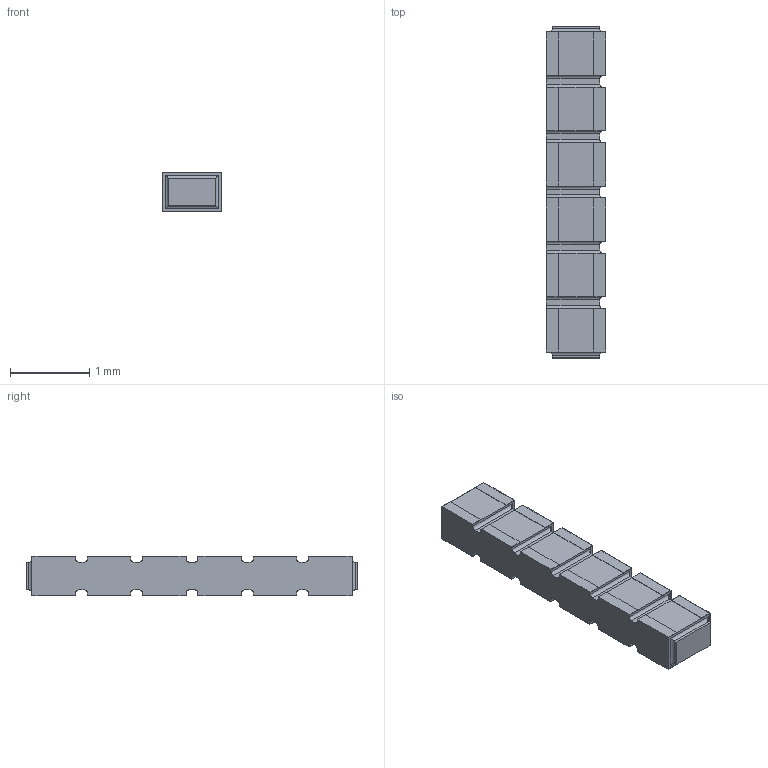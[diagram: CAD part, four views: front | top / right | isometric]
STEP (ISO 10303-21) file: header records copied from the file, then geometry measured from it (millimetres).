
FILE_DESCRIPTION(/* description */ (''),/* implementation_level */ '2;1');
FILE_NAME(/* name */ 'S:\DOCUMENT\AUTOCAD\3D_Modèles\10_3D-pour-VISHAY-COM\PRA\PRA073\PRA073-C2_à_C8\10_IGES\PRA073C6_B-or-N-or-G.stp',/* time_stamp */ '2017-12-21T10:44:41+01:00',/* author */ ('dparmentier'),/* organization */ ('unknown'),/* preprocessor_version */ 'ST-DEVELOPER v17',/* originating_system */ 'Autodesk Inventor 2018',/* authorisation */ '');
FILE_SCHEMA (('AUTOMOTIVE_DESIGN { 1 0 10303 214 3 1 1 }'));
Length unit declared in the file: millimetre
Products named in the file (1): PRA073C6_B-or-N-or-G
Bounding box: 0.75 x 4.2 x 0.5 mm (x, y, z)
Volume: 1.4 mm3; surface area: 22.7 mm2
Topology: 8 solids, 8 shells, 244 faces, 650 edges, 424 vertices
Faces by surface type: plane 186, cylinder 58
Entity records: 7524 total; most frequent: CARTESIAN_POINT 1319, ORIENTED_EDGE 1300, DIRECTION 1228, EDGE_CURVE 650, LINE 562, VECTOR 562, VERTEX_POINT 424, AXIS2_PLACEMENT_3D 333
